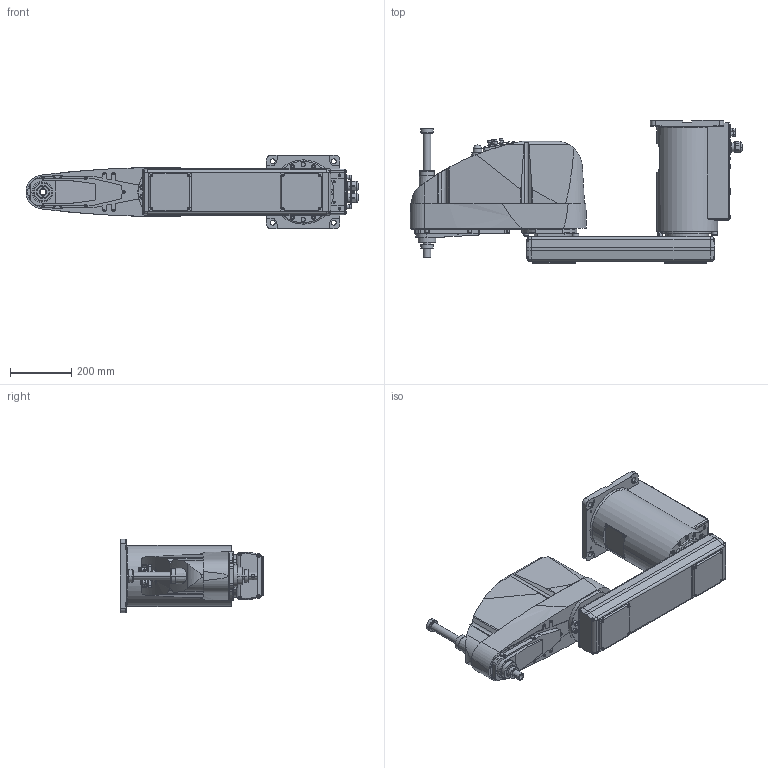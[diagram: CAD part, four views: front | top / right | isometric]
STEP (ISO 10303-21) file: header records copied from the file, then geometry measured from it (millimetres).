
FILE_DESCRIPTION( ( '' ), '1' );
FILE_NAME( '//expscmdclustefs.cadenas.external/client_exchange/iodir/jobs/output/wkb51509304_no0/STEP/G10_851SR_2_14b.stp', '2012-11-22T14:32:18', ( '' ), ( '' ), ' ', ' ', ' ' );
FILE_SCHEMA( ( 'automotive_design' ) );
Length unit declared in the file: millimetre
Products named in the file (4): 1; 2; 3; 4
Bounding box: 1084.5 x 469 x 240 mm (x, y, z)
Volume: 40528035.9 mm3; surface area: 1369927.1 mm2
Topology: 4 solids, 5 shells, 1775 faces, 4308 edges, 2796 vertices
Faces by surface type: plane 990, cylinder 573, cone 188, torus 23, sphere 1
Entity records: 102779 total; most frequent: CARTESIAN_POINT 10266, DIRECTION 9168, STYLED_ITEM 8871, PRESENTATION_STYLE_ASSIGNMENT 8871, COLOUR_RGB 8871, ORIENTED_EDGE 8592, EDGE_CURVE 4296, CURVE_STYLE 4296
